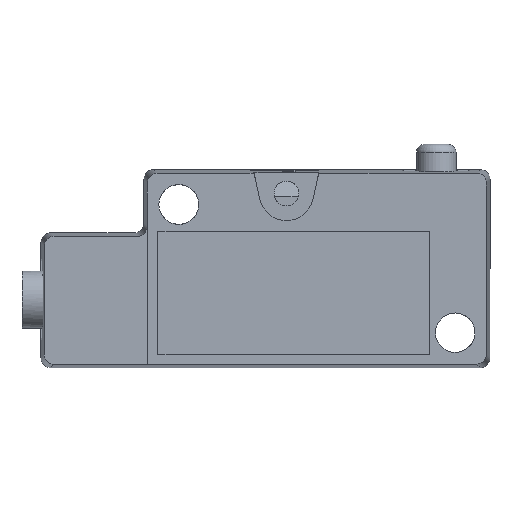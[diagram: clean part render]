
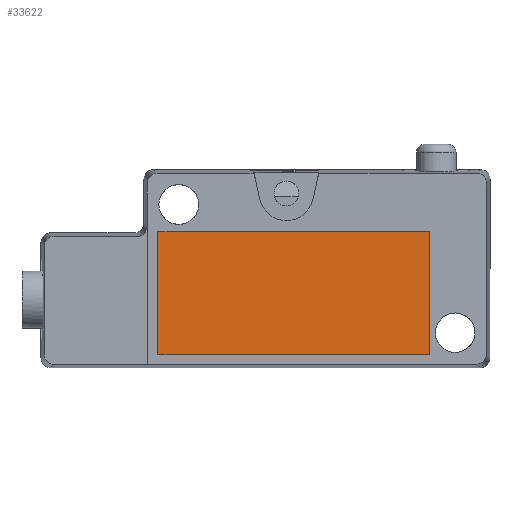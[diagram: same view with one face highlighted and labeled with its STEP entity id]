
A CAD part, front view. The second image highlights one B-rep face of the part: STEP entity #33622.
In plain terms, the highlighted planar face has unit normal (0, -1, 0).
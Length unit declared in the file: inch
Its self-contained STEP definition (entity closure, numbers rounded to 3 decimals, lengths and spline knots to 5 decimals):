
#2268 = VERTEX_POINT ( 'NONE', #33230 ) ;
#2730 = ORIENTED_EDGE ( 'NONE', *, *, #18558, .T. ) ;
#3640 = VERTEX_POINT ( 'NONE', #23359 ) ;
#7311 = DIRECTION ( 'NONE',  ( 0., 0., -1. ) ) ;
#7474 = CARTESIAN_POINT ( 'NONE',  ( -0.34, -0.1495, -0.27299 ) ) ;
#7581 = ORIENTED_EDGE ( 'NONE', *, *, #19755, .T. ) ;
#8910 = VECTOR ( 'NONE', #21874, 39.37008 ) ;
#9271 = VECTOR ( 'NONE', #32631, 39.37008 ) ;
#10384 = ORIENTED_EDGE ( 'NONE', *, *, #10608, .T. ) ;
#10608 = EDGE_CURVE ( 'NONE', #24684, #3640, #30129, .T. ) ;
#11593 = LINE ( 'NONE', #12927, #22206 ) ;
#12195 = EDGE_LOOP ( 'NONE', ( #10384, #23344, #7581, #2730 ) ) ;
#12912 = LINE ( 'NONE', #7474, #15877 ) ;
#12927 = CARTESIAN_POINT ( 'NONE',  ( -0.34, -0.1495, 0.11701 ) ) ;
#13710 = CARTESIAN_POINT ( 'NONE',  ( -0.34, -0.1495, 0.11701 ) ) ;
#15877 = VECTOR ( 'NONE', #31985, 39.37008 ) ;
#16691 = EDGE_CURVE ( 'NONE', #3640, #21931, #12912, .T. ) ;
#18558 = EDGE_CURVE ( 'NONE', #2268, #24684, #11593, .T. ) ;
#19755 = EDGE_CURVE ( 'NONE', #21931, #2268, #29716, .T. ) ;
#21874 = DIRECTION ( 'NONE',  ( 0., 0., -1. ) ) ;
#21931 = VERTEX_POINT ( 'NONE', #30747 ) ;
#22206 = VECTOR ( 'NONE', #26330, 39.37008 ) ;
#23344 = ORIENTED_EDGE ( 'NONE', *, *, #16691, .T. ) ;
#23359 = CARTESIAN_POINT ( 'NONE',  ( -0.34, -0.1495, -0.27299 ) ) ;
#23924 = CARTESIAN_POINT ( 'NONE',  ( 0., -0.1495, 0. ) ) ;
#24684 = VERTEX_POINT ( 'NONE', #29450 ) ;
#26330 = DIRECTION ( 'NONE',  ( -1., 0., 0. ) ) ;
#28250 = FACE_OUTER_BOUND ( 'NONE', #12195, .T. ) ;
#29450 = CARTESIAN_POINT ( 'NONE',  ( -0.34, -0.1495, 0.11701 ) ) ;
#29716 = LINE ( 'NONE', #34902, #9271 ) ;
#30129 = LINE ( 'NONE', #13710, #8910 ) ;
#30747 = CARTESIAN_POINT ( 'NONE',  ( 0.52, -0.1495, -0.27299 ) ) ;
#30990 = PLANE ( 'NONE',  #34167 ) ;
#31985 = DIRECTION ( 'NONE',  ( 1., 0., 0. ) ) ;
#32631 = DIRECTION ( 'NONE',  ( 0., 0., 1. ) ) ;
#33230 = CARTESIAN_POINT ( 'NONE',  ( 0.52, -0.1495, 0.11701 ) ) ;
#33622 = ADVANCED_FACE ( 'NONE', ( #28250 ), #30990, .T. ) ;
#34167 = AXIS2_PLACEMENT_3D ( 'NONE', #23924, #34303, #7311 ) ;
#34303 = DIRECTION ( 'NONE',  ( 0., -1., 0. ) ) ;
#34902 = CARTESIAN_POINT ( 'NONE',  ( 0.52, -0.1495, 0.11701 ) ) ;
